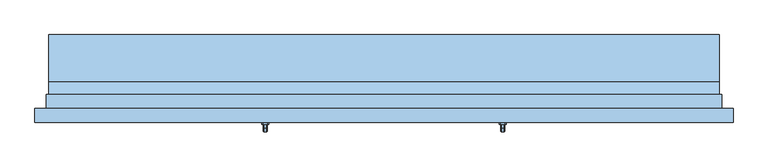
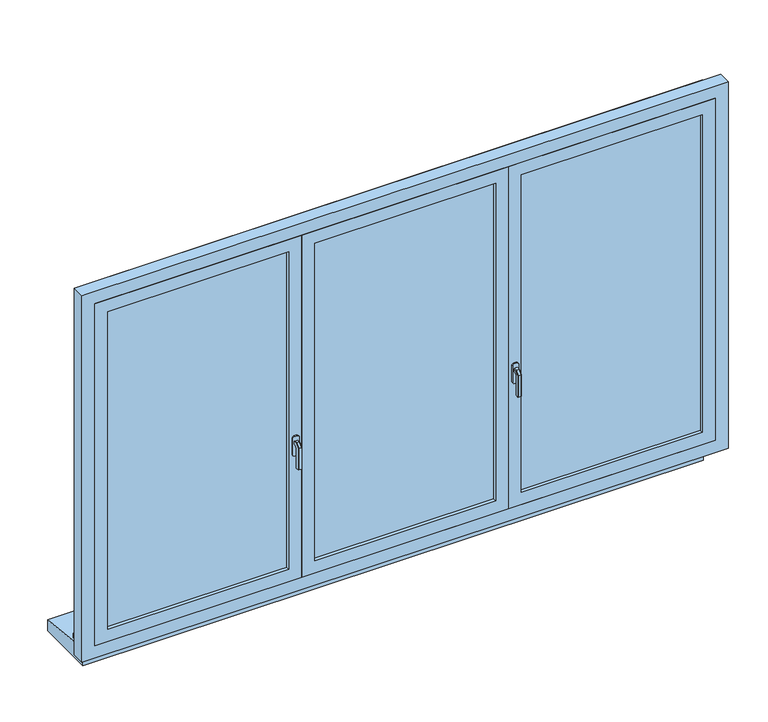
"""IFC4 building model written with IfcOpenShell, lengths in millimetres: window geometry, 3 Vantaux - Droits : 2.40m x 1.45m - Appui Béton."""

from ifc_helpers import new_model, si_unit, frame, origin, place, context, project, spatial, polyline, outline, extrude, faceted_brep, source, transform, mapped, element, save


def window_30ed7840(model_context):
    return source(origin(), model_context, "Body", "SolidModel", [
        faceted_brep([(-419.3539903, -156.0, 1422.0339292), (-417.9660708, -156.0, 1420.6460097), (-417.9660708, -156.0, 1409.3323012), (-419.3323012, -156.0, 1407.9660708), (-430.6676988, -156.0, 1407.9660708), (-432.0339292, -156.0, 1409.3323012), (-432.0339292, -156.0, 1420.6460097), (-430.6460097, -156.0, 1422.0339292), (-419.3539903, -168.9135489, 1422.0339292), (-417.9660708, -168.3386538, 1420.6460097), (-417.9660708, -181.6460097, 1407.3386538), (-417.9660708, -181.6460097, 1320.0), (-417.9660708, -170.3323012, 1320.0), (-417.9660708, -170.3323012, 1402.6523623), (-417.9660708, -163.6523623, 1409.3323012), (-419.3323012, -163.0864511, 1407.9660708), (-430.6676988, -163.0864511, 1407.9660708), (-432.0339292, -163.6523623, 1409.3323012), (-432.0339292, -170.3323012, 1402.6523623), (-432.0339292, -170.3323012, 1320.0), (-432.0339292, -181.6460097, 1320.0), (-432.0339292, -181.6460097, 1407.3386538), (-432.0339292, -168.3386538, 1420.6460097), (-430.6460097, -168.9135489, 1422.0339292), (-419.3539903, -183.0339292, 1407.9135489), (-419.3323012, -168.9660708, 1402.0864511), (-430.6676988, -168.9660708, 1402.0864511), (-430.6460097, -183.0339292, 1407.9135489), (-419.3539903, -183.0339292, 1320.0), (-430.6460097, -183.0339292, 1320.0), (-430.6676988, -168.9660708, 1320.0), (-419.3323012, -168.9660708, 1320.0)], [[[0, 1, 2, 3, 4, 5, 6, 7]], [[1, 0, 8, 9]], [[2, 1, 9, 10, 11, 12, 13, 14]], [[3, 2, 14, 15]], [[4, 3, 15, 16]], [[5, 4, 16, 17]], [[6, 5, 17, 18, 19, 20, 21, 22]], [[7, 6, 22, 23]], [[0, 7, 23, 8]], [[9, 8, 24, 10]], [[15, 14, 13, 25]], [[16, 15, 25, 26]], [[17, 16, 26, 18]], [[23, 22, 21, 27]], [[8, 23, 27, 24]], [[28, 29, 20, 19, 30, 31, 12, 11]], [[10, 24, 28, 11]], [[25, 13, 12, 31]], [[26, 25, 31, 30]], [[18, 26, 30, 19]], [[27, 21, 20, 29]], [[24, 27, 29, 28]]]),
        extrude(outline(polyline([(1440.0, -418.0), (1440.0, -432.0), (1435.0, -437.0), (1365.0, -437.0), (1360.0, -432.0), (1360.0, -418.0), (1365.0, -413.0), (1435.0, -413.0), (1440.0, -418.0)])), frame((0.0, -156.0, 0.0), z_axis=(0.0, 1.0, 0.0), x_axis=(0.0, 0.0, 1.0)), (0.0, 0.0, 1.0), 6.0),
        faceted_brep([(430.6460097, -156.0, 1422.0339292), (432.0339292, -156.0, 1420.6460097), (432.0339292, -156.0, 1409.3323012), (430.6676988, -156.0, 1407.9660708), (419.3323012, -156.0, 1407.9660708), (417.9660708, -156.0, 1409.3323012), (417.9660708, -156.0, 1420.6460097), (419.3539903, -156.0, 1422.0339292), (430.6460097, -168.9135489, 1422.0339292), (432.0339292, -168.3386538, 1420.6460097), (432.0339292, -181.6460097, 1407.3386538), (432.0339292, -181.6460097, 1320.0), (432.0339292, -170.3323012, 1320.0), (432.0339292, -170.3323012, 1402.6523623), (432.0339292, -163.6523623, 1409.3323012), (430.6676988, -163.0864511, 1407.9660708), (419.3323012, -163.0864511, 1407.9660708), (417.9660708, -163.6523623, 1409.3323012), (417.9660708, -170.3323012, 1402.6523623), (417.9660708, -170.3323012, 1320.0), (417.9660708, -181.6460097, 1320.0), (417.9660708, -181.6460097, 1407.3386538), (417.9660708, -168.3386538, 1420.6460097), (419.3539903, -168.9135489, 1422.0339292), (430.6460097, -183.0339292, 1407.9135489), (430.6676988, -168.9660708, 1402.0864511), (419.3323012, -168.9660708, 1402.0864511), (419.3539903, -183.0339292, 1407.9135489), (430.6460097, -183.0339292, 1320.0), (419.3539903, -183.0339292, 1320.0), (419.3323012, -168.9660708, 1320.0), (430.6676988, -168.9660708, 1320.0)], [[[0, 1, 2, 3, 4, 5, 6, 7]], [[1, 0, 8, 9]], [[2, 1, 9, 10, 11, 12, 13, 14]], [[3, 2, 14, 15]], [[4, 3, 15, 16]], [[5, 4, 16, 17]], [[6, 5, 17, 18, 19, 20, 21, 22]], [[7, 6, 22, 23]], [[0, 7, 23, 8]], [[9, 8, 24, 10]], [[15, 14, 13, 25]], [[16, 15, 25, 26]], [[17, 16, 26, 18]], [[23, 22, 21, 27]], [[8, 23, 27, 24]], [[28, 29, 20, 19, 30, 31, 12, 11]], [[10, 24, 28, 11]], [[25, 13, 12, 31]], [[26, 25, 31, 30]], [[18, 26, 30, 19]], [[27, 21, 20, 29]], [[24, 27, 29, 28]]]),
        extrude(outline(polyline([(1440.0, 432.0), (1440.0, 418.0), (1435.0, 413.0), (1365.0, 413.0), (1360.0, 418.0), (1360.0, 432.0), (1365.0, 437.0), (1435.0, 437.0), (1440.0, 432.0)])), frame((0.0, -156.0, 0.0), z_axis=(0.0, 1.0, 0.0), x_axis=(0.0, 0.0, 1.0)), (0.0, 0.0, 1.0), 6.0),
        extrude(outline(polyline([(-70.0, 800.0), (-20.0, 800.0), (-20.0, 785.0), (165.0, 765.5557165), (165.0, 720.0), (-70.0, 720.0), (-70.0, 800.0)])), frame((-1200.0, 0.0, 0.0), z_axis=(1.0, 0.0, 0.0), x_axis=(0.0, 1.0, 0.0)), (0.0, 0.0, 1.0), 2400.0),
        extrude(outline(polyline([(850.0, 400.0), (2250.0, 400.0), (2250.0, -400.0), (850.0, -400.0), (850.0, 400.0)]), holes=[polyline([(900.0, -350.0), (2200.0, -350.0), (2200.0, 350.0), (900.0, 350.0), (900.0, -350.0)])]), frame((0.0, -150.0, 0.0), z_axis=(0.0, 1.0, 0.0), x_axis=(0.0, 0.0, 1.0)), (0.0, 0.0, 1.0), 40.0),
        extrude(outline(polyline([(850.0, -400.0), (2250.0, -400.0), (2250.0, -1200.0), (850.0, -1200.0), (850.0, -400.0)]), holes=[polyline([(900.0, -1150.0), (2200.0, -1150.0), (2200.0, -450.0), (900.0, -450.0), (900.0, -1150.0)])]), frame((0.0, -150.0, 0.0), z_axis=(0.0, 1.0, 0.0), x_axis=(0.0, 0.0, 1.0)), (0.0, 0.0, 1.0), 40.0),
        extrude(outline(polyline([(450.0, -124.0), (1150.0, -124.0), (1150.0, -136.0), (450.0, -136.0), (450.0, -124.0)])), frame((0.0, 0.0, 900.0), z_axis=(0.0, 0.0, 1.0), x_axis=(1.0, 0.0, 0.0)), (0.0, 0.0, 1.0), 1300.0),
        extrude(outline(polyline([(-1150.0, -124.0), (-450.0, -124.0), (-450.0, -136.0), (-1150.0, -136.0), (-1150.0, -124.0)])), frame((0.0, 0.0, 900.0), z_axis=(0.0, 0.0, 1.0), x_axis=(1.0, 0.0, 0.0)), (0.0, 0.0, 1.0), 1300.0),
        extrude(outline(polyline([(-350.0, -124.0), (350.0, -124.0), (350.0, -136.0), (-350.0, -136.0), (-350.0, -124.0)])), frame((0.0, 0.0, 900.0), z_axis=(0.0, 0.0, 1.0), x_axis=(1.0, 0.0, 0.0)), (0.0, 0.0, 1.0), 1300.0),
        extrude(outline(polyline([(850.0, 1200.0), (2250.0, 1200.0), (2250.0, 400.0), (850.0, 400.0), (850.0, 1200.0)]), holes=[polyline([(900.0, 450.0), (2200.0, 450.0), (2200.0, 1150.0), (900.0, 1150.0), (900.0, 450.0)])]), frame((0.0, -150.0, 0.0), z_axis=(0.0, 1.0, 0.0), x_axis=(0.0, 0.0, 1.0)), (0.0, 0.0, 1.0), 40.0),
        faceted_brep([(-1250.0, -150.0, 800.0), (-1250.0, -100.0, 800.0), (-1200.0, -100.0, 800.0), (-1200.0, -15.0, 800.0), (1200.0, -15.0, 800.0), (1200.0, -100.0, 800.0), (1250.0, -100.0, 800.0), (1250.0, -150.0, 800.0), (-1250.0, -150.0, 2300.0), (-1250.0, -100.0, 2300.0), (1250.0, -100.0, 2300.0), (1200.0, -100.0, 839.3761425), (-1200.0, -100.0, 839.3761425), (-1185.0, -100.0, 2235.0), (-1185.0, -100.0, 865.0), (1185.0, -100.0, 865.0), (1185.0, -100.0, 2235.0), (-1200.0, -5.0, 813.9209692), (-1200.0, -5.0, 795.0), (-1200.0, -15.0, 795.0), (1200.0, -15.0, 795.0), (1200.0, -5.0, 795.0), (1200.0, -5.0, 813.9209692), (1250.0, -150.0, 2300.0), (1200.0, -150.0, 2250.0), (1200.0, -150.0, 850.0), (-1200.0, -150.0, 850.0), (-1200.0, -150.0, 2250.0), (-1185.0, -110.0, 2235.0), (-1185.0, -110.0, 865.0), (1185.0, -110.0, 865.0), (1185.0, -110.0, 2235.0), (1200.0, -110.0, 2250.0), (-1200.0, -110.0, 2250.0), (-1200.0, -110.0, 850.0), (1200.0, -110.0, 850.0)], [[[0, 1, 2, 3, 4, 5, 6, 7]], [[1, 0, 8, 9]], [[1, 9, 10, 6, 5, 11, 12, 2], [13, 14, 15, 16]], [[12, 17, 18, 19, 3, 2]], [[3, 19, 20, 4]], [[4, 20, 21, 22, 11, 5]], [[6, 10, 23, 7]], [[0, 7, 23, 8], [24, 25, 26, 27]], [[13, 28, 29, 14]], [[29, 30, 15, 14]], [[31, 16, 15, 30]], [[17, 12, 11, 22]], [[32, 33, 34, 35], [28, 31, 30, 29]], [[34, 33, 27, 26]], [[26, 25, 35, 34]], [[24, 32, 35, 25]], [[18, 17, 22, 21]], [[19, 18, 21, 20]], [[13, 16, 31, 28]], [[33, 32, 24, 27]], [[10, 9, 8, 23]]]),
        extrude(outline(polyline([(800.0, -1210.0), (800.0, -1200.0), (2250.0, -1200.0), (2250.0, 1200.0), (800.0, 1200.0), (800.0, 1210.0), (2260.0, 1210.0), (2260.0, -1210.0), (800.0, -1210.0)])), frame((0.0, -100.0, 0.0), z_axis=(0.0, 1.0, 0.0), x_axis=(0.0, 0.0, 1.0)), (0.0, 0.0, 1.0), 50.0),
        extrude(outline(polyline([(420.0, -102.0), (420.0, -110.0), (380.0, -110.0), (380.0, -102.0), (420.0, -102.0)])), frame((0.0, 0.0, 865.0), z_axis=(0.0, 0.0, 1.0), x_axis=(1.0, 0.0, 0.0)), (0.0, 0.0, 1.0), 1370.0),
        extrude(outline(polyline([(-380.0, -102.0), (-380.0, -110.0), (-420.0, -110.0), (-420.0, -102.0), (-380.0, -102.0)])), frame((0.0, 0.0, 865.0), z_axis=(0.0, 0.0, 1.0), x_axis=(1.0, 0.0, 0.0)), (0.0, 0.0, 1.0), 1370.0),
    ])


if __name__ == "__main__":
    model = new_model("IFC4")
    model_context = context("Model", 3, world=origin())
    ifc_project = project(units=[si_unit("LENGTHUNIT", "METRE", prefix="MILLI")], contexts=[model_context])
    site = spatial("IfcSite", under=ifc_project)
    building = spatial("IfcBuilding", under=site)
    placement = place(None, origin())
    window_shape = window_30ed7840(model_context)
    element("IfcWindow", 1, ObjectType="3 Vantaux - Droits : 2.40m x 1.45m - Appui Béton", at=placement, inside=building, context=model_context, shape_type="MappedRepresentation", body=[
        mapped(window_shape, transform((0.0, 0.0, 0.0), x_axis=(1.0, 0.0, 0.0), y_axis=(0.0, 1.0, 0.0), z_axis=(0.0, 0.0, 1.0))),
    ])
    save(model, "model.ifc")
